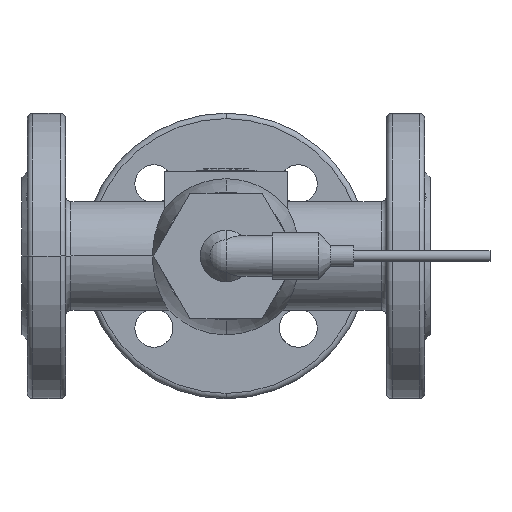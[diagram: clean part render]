
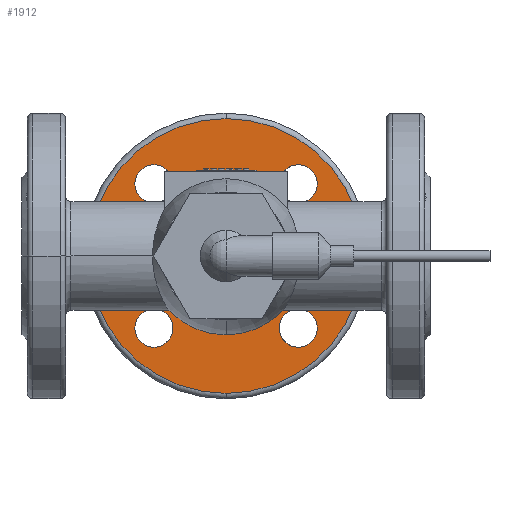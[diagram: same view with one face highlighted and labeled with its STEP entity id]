
A CAD part, front view. The second image highlights one B-rep face of the part: STEP entity #1912.
In plain terms, the highlighted planar face has unit normal (0, -1, 0) as drawn and (0, 1, 0) by its records, which use the part's own axes.
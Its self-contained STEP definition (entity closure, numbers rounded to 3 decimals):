
#1383 = EDGE_LOOP ( 'NONE', ( #2787, #2789 ) ) ;
#1893 = EDGE_LOOP ( 'NONE', ( #1894, #1896 ) ) ;
#1894 = ORIENTED_EDGE ( 'NONE', *, *, #1895, .T. ) ;
#1895 = EDGE_CURVE ( 'NONE', #2244, #2243, #6136, .T. ) ;
#1896 = ORIENTED_EDGE ( 'NONE', *, *, #2242, .T. ) ;
#1912 = ADVANCED_FACE ( 'NONE', ( #6149, #6148, #6147, #6146, #6145, #6144 ), #6142, .F. ) ;
#2242 = EDGE_CURVE ( 'NONE', #2243, #2244, #6806, .T. ) ;
#2243 = VERTEX_POINT ( 'NONE', #6865 ) ;
#2244 = VERTEX_POINT ( 'NONE', #6864 ) ;
#2687 = VERTEX_POINT ( 'NONE', #7865 ) ;
#2770 = ORIENTED_EDGE ( 'NONE', *, *, #2906, .F. ) ;
#2778 = ORIENTED_EDGE ( 'NONE', *, *, #2779, .F. ) ;
#2779 = EDGE_CURVE ( 'NONE', #2908, #2907, #8083, .T. ) ;
#2787 = ORIENTED_EDGE ( 'NONE', *, *, #2788, .T. ) ;
#2788 = EDGE_CURVE ( 'NONE', #2869, #2687, #7380, .T. ) ;
#2789 = ORIENTED_EDGE ( 'NONE', *, *, #2851, .T. ) ;
#2841 = EDGE_CURVE ( 'NONE', #2853, #2854, #8216, .T. ) ;
#2851 = EDGE_CURVE ( 'NONE', #2687, #2869, #8255, .T. ) ;
#2853 = VERTEX_POINT ( 'NONE', #8250 ) ;
#2854 = VERTEX_POINT ( 'NONE', #8249 ) ;
#2869 = VERTEX_POINT ( 'NONE', #8275 ) ;
#2878 = EDGE_CURVE ( 'NONE', #2879, #2880, #8323, .T. ) ;
#2879 = VERTEX_POINT ( 'NONE', #8318 ) ;
#2880 = VERTEX_POINT ( 'NONE', #8317 ) ;
#2892 = EDGE_CURVE ( 'NONE', #2893, #2894, #8360, .T. ) ;
#2893 = VERTEX_POINT ( 'NONE', #8356 ) ;
#2894 = VERTEX_POINT ( 'NONE', #8355 ) ;
#2906 = EDGE_CURVE ( 'NONE', #2907, #2908, #8332, .T. ) ;
#2907 = VERTEX_POINT ( 'NONE', #7826 ) ;
#2908 = VERTEX_POINT ( 'NONE', #7825 ) ;
#2937 = EDGE_LOOP ( 'NONE', ( #2770, #2778 ) ) ;
#2939 = ORIENTED_EDGE ( 'NONE', *, *, #2892, .F. ) ;
#2940 = ORIENTED_EDGE ( 'NONE', *, *, #2941, .F. ) ;
#2941 = EDGE_CURVE ( 'NONE', #2894, #2893, #8451, .T. ) ;
#2944 = EDGE_CURVE ( 'NONE', #2880, #2879, #8434, .T. ) ;
#2945 = EDGE_LOOP ( 'NONE', ( #2939, #2940 ) ) ;
#5913 = DIRECTION ( 'NONE',  ( 0., 0., -1. ) ) ;
#5914 = DIRECTION ( 'NONE',  ( 0., -1., 0. ) ) ;
#6085 = CARTESIAN_POINT ( 'NONE',  ( 0., -64., 0. ) ) ;
#6133 = DIRECTION ( 'NONE',  ( 0., 0., -1. ) ) ;
#6134 = DIRECTION ( 'NONE',  ( 0., -1., 0. ) ) ;
#6135 = AXIS2_PLACEMENT_3D ( 'NONE', #6085, #6134, #6133 ) ;
#6136 = CIRCLE ( 'NONE', #6135, 22. ) ;
#6140 = CARTESIAN_POINT ( 'NONE',  ( 52.5, -64., 0. ) ) ;
#6141 = AXIS2_PLACEMENT_3D ( 'NONE', #6140, #5914, #5913 ) ;
#6142 = PLANE ( 'NONE',  #6141 ) ;
#6144 = FACE_BOUND ( 'NONE', #2937, .T. ) ;
#6145 = FACE_BOUND ( 'NONE', #2945, .T. ) ;
#6146 = FACE_BOUND ( 'NONE', #7854, .T. ) ;
#6147 = FACE_BOUND ( 'NONE', #7853, .T. ) ;
#6148 = FACE_OUTER_BOUND ( 'NONE', #1383, .T. ) ;
#6149 = FACE_BOUND ( 'NONE', #1893, .T. ) ;
#6806 = CIRCLE ( 'NONE', #6869, 22. ) ;
#6864 = CARTESIAN_POINT ( 'NONE',  ( 0., -64., -22. ) ) ;
#6865 = CARTESIAN_POINT ( 'NONE',  ( 0., -64., 22. ) ) ;
#6866 = DIRECTION ( 'NONE',  ( 0., 0., -1. ) ) ;
#6867 = DIRECTION ( 'NONE',  ( 0., -1., 0. ) ) ;
#6868 = CARTESIAN_POINT ( 'NONE',  ( 0., -64., 0. ) ) ;
#6869 = AXIS2_PLACEMENT_3D ( 'NONE', #6868, #6867, #6866 ) ;
#7380 = CIRCLE ( 'NONE', #7633, 50.5 ) ;
#7633 = AXIS2_PLACEMENT_3D ( 'NONE', #7812, #7811, #7848 ) ;
#7811 = DIRECTION ( 'NONE',  ( 0., 1., 0. ) ) ;
#7812 = CARTESIAN_POINT ( 'NONE',  ( 0., -64., 0. ) ) ;
#7825 = CARTESIAN_POINT ( 'NONE',  ( 26.517, -64., -19.517 ) ) ;
#7826 = CARTESIAN_POINT ( 'NONE',  ( 26.517, -64., -33.517 ) ) ;
#7848 = DIRECTION ( 'NONE',  ( 0., 0., -1. ) ) ;
#7849 = ORIENTED_EDGE ( 'NONE', *, *, #2944, .F. ) ;
#7850 = ORIENTED_EDGE ( 'NONE', *, *, #2878, .F. ) ;
#7853 = EDGE_LOOP ( 'NONE', ( #7859, #7860 ) ) ;
#7854 = EDGE_LOOP ( 'NONE', ( #7850, #7849 ) ) ;
#7859 = ORIENTED_EDGE ( 'NONE', *, *, #2841, .F. ) ;
#7860 = ORIENTED_EDGE ( 'NONE', *, *, #7861, .F. ) ;
#7861 = EDGE_CURVE ( 'NONE', #2854, #2853, #8472, .T. ) ;
#7865 = CARTESIAN_POINT ( 'NONE',  ( 0., -64., 50.5 ) ) ;
#8080 = DIRECTION ( 'NONE',  ( 0., 0., -1. ) ) ;
#8081 = DIRECTION ( 'NONE',  ( 0., 1., 0. ) ) ;
#8082 = AXIS2_PLACEMENT_3D ( 'NONE', #8089, #8081, #8080 ) ;
#8083 = CIRCLE ( 'NONE', #8082, 7. ) ;
#8089 = CARTESIAN_POINT ( 'NONE',  ( 26.517, -64., -26.517 ) ) ;
#8213 = DIRECTION ( 'NONE',  ( 0., 0., -1. ) ) ;
#8214 = DIRECTION ( 'NONE',  ( 0., 1., 0. ) ) ;
#8215 = AXIS2_PLACEMENT_3D ( 'NONE', #8222, #8214, #8213 ) ;
#8216 = CIRCLE ( 'NONE', #8215, 7. ) ;
#8222 = CARTESIAN_POINT ( 'NONE',  ( 26.517, -64., 26.517 ) ) ;
#8249 = CARTESIAN_POINT ( 'NONE',  ( 26.517, -64., 33.517 ) ) ;
#8250 = CARTESIAN_POINT ( 'NONE',  ( 26.517, -64., 19.517 ) ) ;
#8251 = DIRECTION ( 'NONE',  ( 0., 0., -1. ) ) ;
#8252 = DIRECTION ( 'NONE',  ( 0., 1., 0. ) ) ;
#8253 = CARTESIAN_POINT ( 'NONE',  ( 0., -64., 0. ) ) ;
#8254 = AXIS2_PLACEMENT_3D ( 'NONE', #8253, #8252, #8251 ) ;
#8255 = CIRCLE ( 'NONE', #8254, 50.5 ) ;
#8275 = CARTESIAN_POINT ( 'NONE',  ( 0., -64., -50.5 ) ) ;
#8300 = CARTESIAN_POINT ( 'NONE',  ( -26.517, -64., -26.517 ) ) ;
#8317 = CARTESIAN_POINT ( 'NONE',  ( -26.517, -64., 33.517 ) ) ;
#8318 = CARTESIAN_POINT ( 'NONE',  ( -26.517, -64., 19.517 ) ) ;
#8319 = DIRECTION ( 'NONE',  ( 0., 0., -1. ) ) ;
#8320 = DIRECTION ( 'NONE',  ( 0., 1., 0. ) ) ;
#8321 = CARTESIAN_POINT ( 'NONE',  ( -26.517, -64., 26.517 ) ) ;
#8322 = AXIS2_PLACEMENT_3D ( 'NONE', #8321, #8320, #8319 ) ;
#8323 = CIRCLE ( 'NONE', #8322, 7. ) ;
#8329 = DIRECTION ( 'NONE',  ( 0., 0., -1. ) ) ;
#8330 = DIRECTION ( 'NONE',  ( 0., 1., 0. ) ) ;
#8331 = AXIS2_PLACEMENT_3D ( 'NONE', #8338, #8330, #8329 ) ;
#8332 = CIRCLE ( 'NONE', #8331, 7. ) ;
#8338 = CARTESIAN_POINT ( 'NONE',  ( 26.517, -64., -26.517 ) ) ;
#8355 = CARTESIAN_POINT ( 'NONE',  ( -26.517, -64., -19.517 ) ) ;
#8356 = CARTESIAN_POINT ( 'NONE',  ( -26.517, -64., -33.517 ) ) ;
#8357 = DIRECTION ( 'NONE',  ( 0., 0., -1. ) ) ;
#8358 = DIRECTION ( 'NONE',  ( 0., 1., 0. ) ) ;
#8359 = AXIS2_PLACEMENT_3D ( 'NONE', #8300, #8358, #8357 ) ;
#8360 = CIRCLE ( 'NONE', #8359, 7. ) ;
#8430 = DIRECTION ( 'NONE',  ( 0., 0., -1. ) ) ;
#8431 = DIRECTION ( 'NONE',  ( 0., 1., 0. ) ) ;
#8432 = CARTESIAN_POINT ( 'NONE',  ( -26.517, -64., 26.517 ) ) ;
#8433 = AXIS2_PLACEMENT_3D ( 'NONE', #8432, #8431, #8430 ) ;
#8434 = CIRCLE ( 'NONE', #8433, 7. ) ;
#8435 = DIRECTION ( 'NONE',  ( 0., 0., -1. ) ) ;
#8449 = DIRECTION ( 'NONE',  ( 0., 1., 0. ) ) ;
#8450 = AXIS2_PLACEMENT_3D ( 'NONE', #8452, #8449, #8435 ) ;
#8451 = CIRCLE ( 'NONE', #8450, 7. ) ;
#8452 = CARTESIAN_POINT ( 'NONE',  ( -26.517, -64., -26.517 ) ) ;
#8468 = DIRECTION ( 'NONE',  ( 0., 0., -1. ) ) ;
#8469 = DIRECTION ( 'NONE',  ( 0., 1., 0. ) ) ;
#8470 = CARTESIAN_POINT ( 'NONE',  ( 26.517, -64., 26.517 ) ) ;
#8471 = AXIS2_PLACEMENT_3D ( 'NONE', #8470, #8469, #8468 ) ;
#8472 = CIRCLE ( 'NONE', #8471, 7. ) ;
